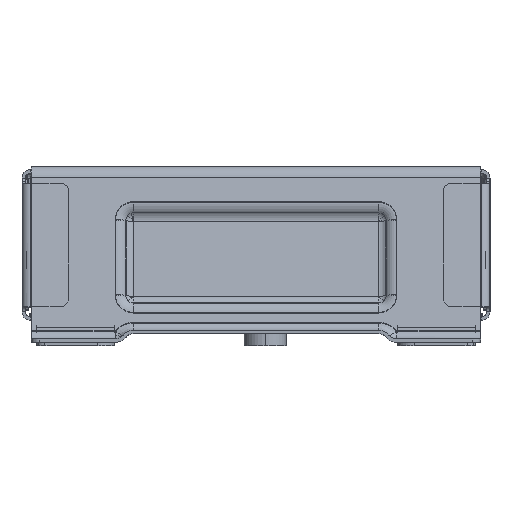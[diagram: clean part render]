
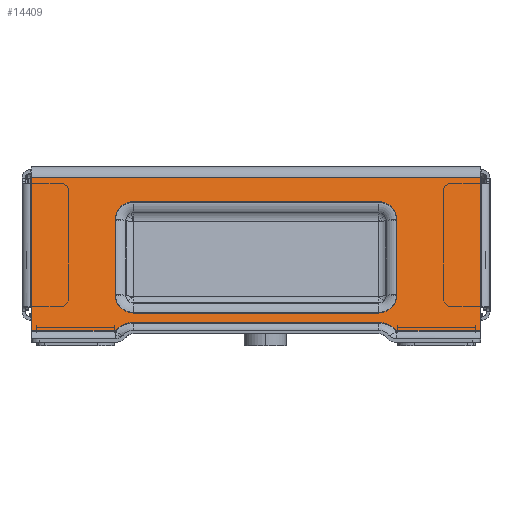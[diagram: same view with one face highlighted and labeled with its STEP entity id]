
A CAD part, left-side view. The second image highlights one B-rep face of the part: STEP entity #14409.
In plain terms, the highlighted planar face has unit normal (-0.979, 0, 0.203).
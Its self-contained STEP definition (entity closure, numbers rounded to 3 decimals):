
#14109=CARTESIAN_POINT('Vertex',(-474.382,-861.,100.023)) ;
#14112=CARTESIAN_POINT('Line Origine',(-483.738,-861.,54.853)) ;
#14116=CARTESIAN_POINT('Vertex',(-493.095,-861.,9.683)) ;
#14248=CARTESIAN_POINT('Vertex',(-493.095,-811.724,9.683)) ;
#14263=CARTESIAN_POINT('Line Origine',(-493.095,-729.,9.683)) ;
#14276=CARTESIAN_POINT('Axis2P3D Location',(-473.061,-729.,106.4)) ;
#14281=CARTESIAN_POINT('Line Origine',(-492.059,-729.,14.683)) ;
#14285=CARTESIAN_POINT('Vertex',(-492.059,-801.,14.683)) ;
#14287=CARTESIAN_POINT('Vertex',(-492.059,-657.,14.683)) ;
#14291=CARTESIAN_POINT('Control Point',(-493.095,-811.724,9.683)) ;
#14292=CARTESIAN_POINT('Control Point',(-492.893,-810.91,10.654)) ;
#14293=CARTESIAN_POINT('Control Point',(-492.711,-809.983,11.535)) ;
#14294=CARTESIAN_POINT('Control Point',(-492.551,-808.957,12.309)) ;
#14295=CARTESIAN_POINT('Control Point',(-492.293,-806.838,13.554)) ;
#14296=CARTESIAN_POINT('Control Point',(-492.135,-804.496,14.315)) ;
#14297=CARTESIAN_POINT('Control Point',(-492.084,-803.343,14.561)) ;
#14298=CARTESIAN_POINT('Control Point',(-492.059,-802.172,14.683)) ;
#14299=CARTESIAN_POINT('Control Point',(-492.059,-801.,14.683)) ;
#14301=CARTESIAN_POINT('Line Origine',(-474.382,-729.,100.023)) ;
#14305=CARTESIAN_POINT('Vertex',(-474.382,-597.,100.023)) ;
#14308=CARTESIAN_POINT('Line Origine',(-483.738,-597.,54.853)) ;
#14312=CARTESIAN_POINT('Vertex',(-493.095,-597.,9.683)) ;
#14315=CARTESIAN_POINT('Line Origine',(-493.095,-621.639,9.683)) ;
#14319=CARTESIAN_POINT('Vertex',(-493.095,-646.277,9.683)) ;
#14323=CARTESIAN_POINT('Control Point',(-492.059,-657.,14.683)) ;
#14324=CARTESIAN_POINT('Control Point',(-492.059,-655.729,14.683)) ;
#14325=CARTESIAN_POINT('Control Point',(-492.089,-654.457,14.539)) ;
#14326=CARTESIAN_POINT('Control Point',(-492.149,-653.208,14.249)) ;
#14327=CARTESIAN_POINT('Control Point',(-492.32,-650.885,13.425)) ;
#14328=CARTESIAN_POINT('Control Point',(-492.589,-648.805,12.125)) ;
#14329=CARTESIAN_POINT('Control Point',(-492.74,-647.873,11.396)) ;
#14330=CARTESIAN_POINT('Control Point',(-492.909,-647.028,10.578)) ;
#14331=CARTESIAN_POINT('Control Point',(-493.095,-646.277,9.683)) ;
#14343=CARTESIAN_POINT('Line Origine',(-477.377,-729.,85.561)) ;
#14347=CARTESIAN_POINT('Vertex',(-477.377,-801.,85.561)) ;
#14349=CARTESIAN_POINT('Vertex',(-477.377,-657.,85.561)) ;
#14352=CARTESIAN_POINT('Axis2P3D Location',(-479.552,-801.,75.06)) ;
#14356=CARTESIAN_POINT('Vertex',(-479.552,-811.724,75.06)) ;
#14359=CARTESIAN_POINT('Line Origine',(-484.11,-811.724,53.06)) ;
#14363=CARTESIAN_POINT('Vertex',(-488.667,-811.724,31.06)) ;
#14366=CARTESIAN_POINT('Axis2P3D Location',(-488.667,-801.,31.06)) ;
#14370=CARTESIAN_POINT('Vertex',(-490.842,-801.,20.559)) ;
#14373=CARTESIAN_POINT('Line Origine',(-490.842,-729.,20.559)) ;
#14377=CARTESIAN_POINT('Vertex',(-490.842,-657.,20.559)) ;
#14380=CARTESIAN_POINT('Axis2P3D Location',(-488.667,-657.,31.06)) ;
#14384=CARTESIAN_POINT('Vertex',(-488.667,-646.277,31.06)) ;
#14387=CARTESIAN_POINT('Line Origine',(-484.11,-646.277,53.06)) ;
#14391=CARTESIAN_POINT('Vertex',(-479.552,-646.277,75.06)) ;
#14394=CARTESIAN_POINT('Axis2P3D Location',(-479.552,-657.,75.06)) ;
#14113=DIRECTION('Vector Direction',(-0.203,0.,-0.979)) ;
#14264=DIRECTION('Vector Direction',(0.,1.,0.)) ;
#14277=DIRECTION('Axis2P3D Direction',(0.979,0.,-0.203)) ;
#14278=DIRECTION('Axis2P3D XDirection',(-0.203,0.,-0.979)) ;
#14282=DIRECTION('Vector Direction',(0.,-1.,0.)) ;
#14302=DIRECTION('Vector Direction',(0.,1.,0.)) ;
#14309=DIRECTION('Vector Direction',(-0.203,0.,-0.979)) ;
#14316=DIRECTION('Vector Direction',(0.,1.,0.)) ;
#14344=DIRECTION('Vector Direction',(0.,-1.,0.)) ;
#14353=DIRECTION('Axis2P3D Direction',(0.979,0.,-0.203)) ;
#14360=DIRECTION('Vector Direction',(-0.203,0.,-0.979)) ;
#14367=DIRECTION('Axis2P3D Direction',(0.979,0.,-0.203)) ;
#14374=DIRECTION('Vector Direction',(0.,1.,0.)) ;
#14381=DIRECTION('Axis2P3D Direction',(0.979,0.,-0.203)) ;
#14388=DIRECTION('Vector Direction',(0.203,0.,0.979)) ;
#14395=DIRECTION('Axis2P3D Direction',(0.979,0.,-0.203)) ;
#14279=AXIS2_PLACEMENT_3D('Plane Axis2P3D',#14276,#14277,#14278) ;
#14354=AXIS2_PLACEMENT_3D('Circle Axis2P3D',#14352,#14353,$) ;
#14368=AXIS2_PLACEMENT_3D('Circle Axis2P3D',#14366,#14367,$) ;
#14382=AXIS2_PLACEMENT_3D('Circle Axis2P3D',#14380,#14381,$) ;
#14396=AXIS2_PLACEMENT_3D('Circle Axis2P3D',#14394,#14395,$) ;
#14334=ORIENTED_EDGE('',*,*,#14289,.F.) ;
#14335=ORIENTED_EDGE('',*,*,#14300,.F.) ;
#14336=ORIENTED_EDGE('',*,*,#14267,.F.) ;
#14337=ORIENTED_EDGE('',*,*,#14118,.F.) ;
#14338=ORIENTED_EDGE('',*,*,#14307,.T.) ;
#14339=ORIENTED_EDGE('',*,*,#14314,.T.) ;
#14340=ORIENTED_EDGE('',*,*,#14321,.F.) ;
#14341=ORIENTED_EDGE('',*,*,#14332,.F.) ;
#14400=ORIENTED_EDGE('',*,*,#14351,.F.) ;
#14401=ORIENTED_EDGE('',*,*,#14358,.F.) ;
#14402=ORIENTED_EDGE('',*,*,#14365,.F.) ;
#14403=ORIENTED_EDGE('',*,*,#14372,.F.) ;
#14404=ORIENTED_EDGE('',*,*,#14379,.F.) ;
#14405=ORIENTED_EDGE('',*,*,#14386,.F.) ;
#14406=ORIENTED_EDGE('',*,*,#14393,.F.) ;
#14407=ORIENTED_EDGE('',*,*,#14398,.F.) ;
#14408=FACE_BOUND('',#14399,.T.) ;
#14114=VECTOR('Line Direction',#14113,1.) ;
#14265=VECTOR('Line Direction',#14264,1.) ;
#14283=VECTOR('Line Direction',#14282,1.) ;
#14303=VECTOR('Line Direction',#14302,1.) ;
#14310=VECTOR('Line Direction',#14309,1.) ;
#14317=VECTOR('Line Direction',#14316,1.) ;
#14345=VECTOR('Line Direction',#14344,1.) ;
#14361=VECTOR('Line Direction',#14360,1.) ;
#14375=VECTOR('Line Direction',#14374,1.) ;
#14389=VECTOR('Line Direction',#14388,1.) ;
#14409=ADVANCED_FACE('SHT0017890-\X2\4E3B9A7E5E95652F67B6524D4FA794A391D1\X0\',(#14342,#14408),#14280,.F.) ;
#14290=B_SPLINE_CURVE_WITH_KNOTS('',5,(#14291,#14292,#14293,#14294,#14295,#14296,#14297,#14298,#14299),.UNSPECIFIED.,.F.,.U.,(6,3,6),(0.,9.094,17.391),.UNSPECIFIED.) ;
#14322=B_SPLINE_CURVE_WITH_KNOTS('',5,(#14323,#14324,#14325,#14326,#14327,#14328,#14329,#14330,#14331),.UNSPECIFIED.,.F.,.U.,(6,3,6),(0.,9.011,17.391),.UNSPECIFIED.) ;
#14355=CIRCLE('generated circle',#14354,10.724) ;
#14369=CIRCLE('generated circle',#14368,10.724) ;
#14383=CIRCLE('generated circle',#14382,10.724) ;
#14397=CIRCLE('generated circle',#14396,10.724) ;
#14118=EDGE_CURVE('',#14110,#14117,#14115,.T.) ;
#14267=EDGE_CURVE('',#14117,#14249,#14266,.T.) ;
#14289=EDGE_CURVE('',#14286,#14288,#14284,.F.) ;
#14300=EDGE_CURVE('',#14249,#14286,#14290,.T.) ;
#14307=EDGE_CURVE('',#14110,#14306,#14304,.T.) ;
#14314=EDGE_CURVE('',#14306,#14313,#14311,.T.) ;
#14321=EDGE_CURVE('',#14320,#14313,#14318,.T.) ;
#14332=EDGE_CURVE('',#14288,#14320,#14322,.T.) ;
#14351=EDGE_CURVE('',#14348,#14350,#14346,.F.) ;
#14358=EDGE_CURVE('',#14357,#14348,#14355,.F.) ;
#14365=EDGE_CURVE('',#14364,#14357,#14362,.F.) ;
#14372=EDGE_CURVE('',#14371,#14364,#14369,.F.) ;
#14379=EDGE_CURVE('',#14378,#14371,#14376,.F.) ;
#14386=EDGE_CURVE('',#14385,#14378,#14383,.F.) ;
#14393=EDGE_CURVE('',#14392,#14385,#14390,.F.) ;
#14398=EDGE_CURVE('',#14350,#14392,#14397,.F.) ;
#14333=EDGE_LOOP('',(#14334,#14335,#14336,#14337,#14338,#14339,#14340,#14341)) ;
#14399=EDGE_LOOP('',(#14400,#14401,#14402,#14403,#14404,#14405,#14406,#14407)) ;
#14342=FACE_OUTER_BOUND('',#14333,.T.) ;
#14115=LINE('Line',#14112,#14114) ;
#14266=LINE('Line',#14263,#14265) ;
#14284=LINE('Line',#14281,#14283) ;
#14304=LINE('Line',#14301,#14303) ;
#14311=LINE('Line',#14308,#14310) ;
#14318=LINE('Line',#14315,#14317) ;
#14346=LINE('Line',#14343,#14345) ;
#14362=LINE('Line',#14359,#14361) ;
#14376=LINE('Line',#14373,#14375) ;
#14390=LINE('Line',#14387,#14389) ;
#14280=PLANE('Plane',#14279) ;
#14110=VERTEX_POINT('',#14109) ;
#14117=VERTEX_POINT('',#14116) ;
#14249=VERTEX_POINT('',#14248) ;
#14286=VERTEX_POINT('',#14285) ;
#14288=VERTEX_POINT('',#14287) ;
#14306=VERTEX_POINT('',#14305) ;
#14313=VERTEX_POINT('',#14312) ;
#14320=VERTEX_POINT('',#14319) ;
#14348=VERTEX_POINT('',#14347) ;
#14350=VERTEX_POINT('',#14349) ;
#14357=VERTEX_POINT('',#14356) ;
#14364=VERTEX_POINT('',#14363) ;
#14371=VERTEX_POINT('',#14370) ;
#14378=VERTEX_POINT('',#14377) ;
#14385=VERTEX_POINT('',#14384) ;
#14392=VERTEX_POINT('',#14391) ;
